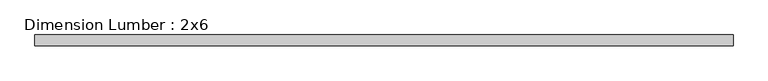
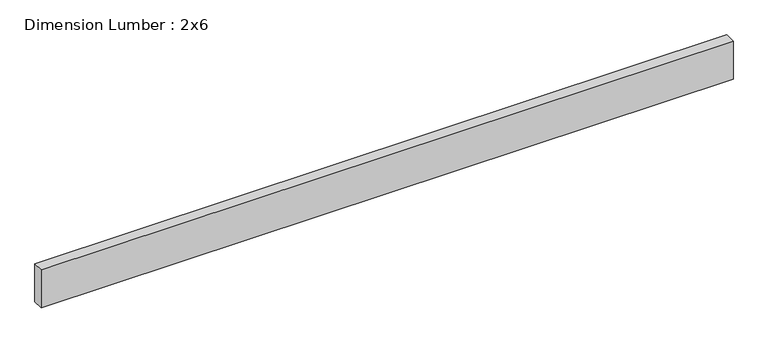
"""IFC4 building model written with IfcOpenShell, lengths in millimetres: beam geometry, Dimension Lumber : 2x6."""

from ifc_helpers import new_model, si_unit, frame, origin, place, context, project, spatial, polyline, outline, extrude, source, transform, mapped, element, save


def dimension_lumber_2x6_d64612f5(model_context):
    return source(origin(), model_context, "Body", "SweptSolid", [
        extrude(outline(polyline([(1173.1625, 19.05), (1173.1625, -19.05), (-1230.3125, -19.05), (-1230.3125, 19.05), (1173.1625, 19.05)])), frame((0.0, 0.0, -69.85), z_axis=(0.0, 0.0, 1.0), x_axis=(1.0, 0.0, 0.0)), (0.0, 0.0, 1.0), 139.7),
    ])


if __name__ == "__main__":
    model = new_model("IFC4")
    model_context = context("Model", 3, world=origin())
    ifc_project = project(units=[si_unit("LENGTHUNIT", "METRE", prefix="MILLI")], contexts=[model_context])
    site = spatial("IfcSite", under=ifc_project)
    building = spatial("IfcBuilding", under=site)
    placement = place(None, origin())
    dimension_lumber_2x6_shape = dimension_lumber_2x6_d64612f5(model_context)
    element("IfcBeam", 1, ObjectType="Dimension Lumber : 2x6", at=placement, inside=building, context=model_context, shape_type="MappedRepresentation", body=[
        mapped(dimension_lumber_2x6_shape, transform((0.0, 0.0, 0.0), x_axis=(1.0, 0.0, 0.0), y_axis=(0.0, 1.0, 0.0), z_axis=(0.0, 0.0, 1.0))),
    ])
    save(model, "model.ifc")
